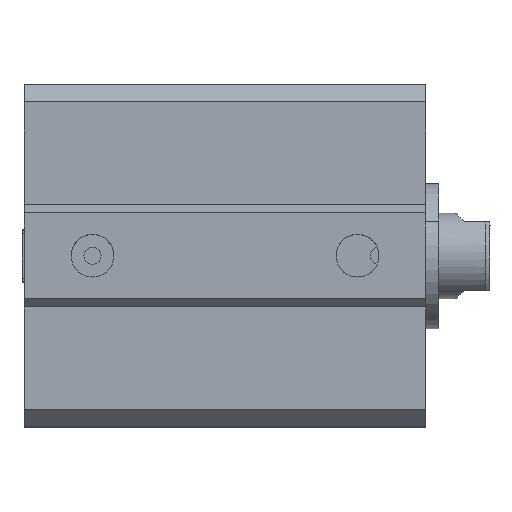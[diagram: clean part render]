
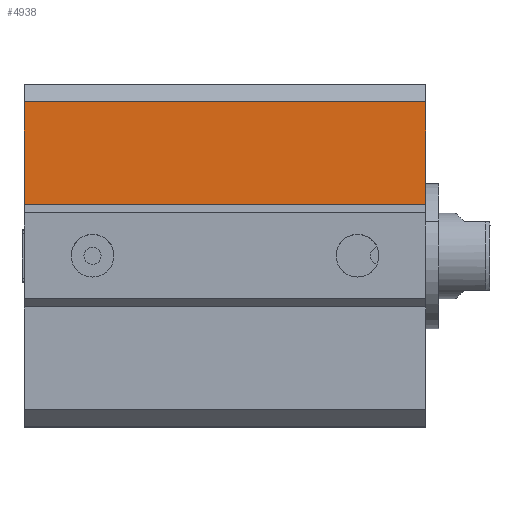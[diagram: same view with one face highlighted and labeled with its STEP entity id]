
A CAD part, top view. The second image highlights one B-rep face of the part: STEP entity #4938.
In plain terms, the highlighted planar face has unit normal (0, 0, 1).
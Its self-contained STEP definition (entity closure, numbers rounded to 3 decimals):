
#3859=CARTESIAN_POINT('Vertex',(47.,18.,20.)) ;
#3862=CARTESIAN_POINT('Line Origine',(47.,12.,20.)) ;
#3866=CARTESIAN_POINT('Vertex',(47.,6.,20.)) ;
#4900=CARTESIAN_POINT('Vertex',(0.,18.,20.)) ;
#4903=CARTESIAN_POINT('Line Origine',(23.5,18.,20.)) ;
#4915=CARTESIAN_POINT('Axis2P3D Location',(0.,6.,20.)) ;
#4920=CARTESIAN_POINT('Line Origine',(0.,12.,20.)) ;
#4924=CARTESIAN_POINT('Vertex',(0.,6.,20.)) ;
#4927=CARTESIAN_POINT('Line Origine',(23.5,6.,20.)) ;
#3863=DIRECTION('Vector Direction',(0.,1.,0.)) ;
#4904=DIRECTION('Vector Direction',(1.,0.,0.)) ;
#4916=DIRECTION('Axis2P3D Direction',(0.,0.,-1.)) ;
#4917=DIRECTION('Axis2P3D XDirection',(0.,1.,0.)) ;
#4921=DIRECTION('Vector Direction',(0.,1.,0.)) ;
#4928=DIRECTION('Vector Direction',(1.,0.,0.)) ;
#4918=AXIS2_PLACEMENT_3D('Plane Axis2P3D',#4915,#4916,#4917) ;
#4933=ORIENTED_EDGE('',*,*,#4907,.F.) ;
#4934=ORIENTED_EDGE('',*,*,#4926,.T.) ;
#4935=ORIENTED_EDGE('',*,*,#4931,.T.) ;
#4936=ORIENTED_EDGE('',*,*,#3868,.F.) ;
#3864=VECTOR('Line Direction',#3863,1.) ;
#4905=VECTOR('Line Direction',#4904,1.) ;
#4922=VECTOR('Line Direction',#4921,1.) ;
#4929=VECTOR('Line Direction',#4928,1.) ;
#4938=ADVANCED_FACE('PartBody',(#4937),#4919,.F.) ;
#3868=EDGE_CURVE('',#3860,#3867,#3865,.F.) ;
#4907=EDGE_CURVE('',#4901,#3860,#4906,.T.) ;
#4926=EDGE_CURVE('',#4901,#4925,#4923,.F.) ;
#4931=EDGE_CURVE('',#4925,#3867,#4930,.T.) ;
#4932=EDGE_LOOP('',(#4933,#4934,#4935,#4936)) ;
#4937=FACE_OUTER_BOUND('',#4932,.T.) ;
#3865=LINE('Line',#3862,#3864) ;
#4906=LINE('Line',#4903,#4905) ;
#4923=LINE('Line',#4920,#4922) ;
#4930=LINE('Line',#4927,#4929) ;
#4919=PLANE('',#4918) ;
#3860=VERTEX_POINT('',#3859) ;
#3867=VERTEX_POINT('',#3866) ;
#4901=VERTEX_POINT('',#4900) ;
#4925=VERTEX_POINT('',#4924) ;
